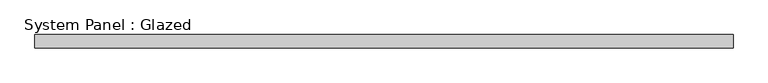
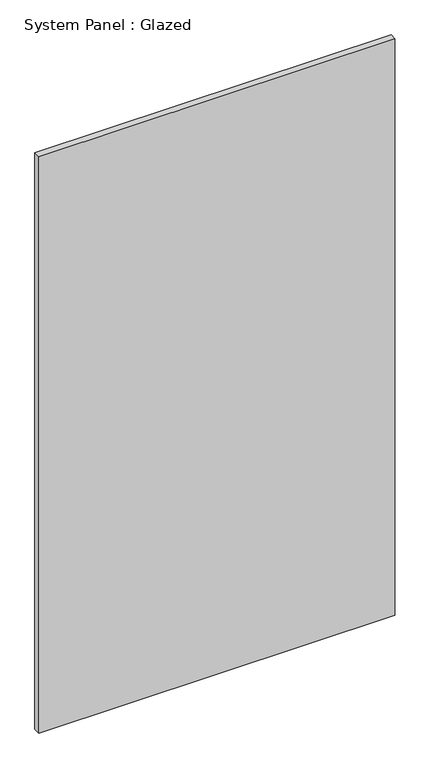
"""IFC4 building model written with IfcOpenShell, lengths in millimetres: plate geometry, System Panel : Glazed."""

from ifc_helpers import new_model, si_unit, origin, origin_with_axes, place, context, project, spatial, polyline, outline, extrude, source, transform, mapped, element, save


def system_panel_glazed_9bc9b24f(model_context):
    return source(origin(), model_context, "Body", "SweptSolid", [
        extrude(outline(polyline([(675.48125, 19.05), (-675.48125, 19.05), (-675.48125, 44.45), (675.48125, 44.45), (675.48125, 19.05)])), origin_with_axes(), (0.0, 0.0, 1.0), 2311.4),
    ])


if __name__ == "__main__":
    model = new_model("IFC4")
    model_context = context("Model", 3, world=origin())
    ifc_project = project(units=[si_unit("LENGTHUNIT", "METRE", prefix="MILLI")], contexts=[model_context])
    site = spatial("IfcSite", under=ifc_project)
    building = spatial("IfcBuilding", under=site)
    placement = place(None, origin())
    system_panel_glazed_shape = system_panel_glazed_9bc9b24f(model_context)
    element("IfcPlate", 1, ObjectType="System Panel : Glazed", at=placement, inside=building, context=model_context, shape_type="MappedRepresentation", body=[
        mapped(system_panel_glazed_shape, transform((0.0, 0.0, 0.0), x_axis=(1.0, 0.0, 0.0), y_axis=(0.0, 1.0, 0.0), z_axis=(0.0, 0.0, 1.0))),
    ])
    save(model, "model.ifc")
